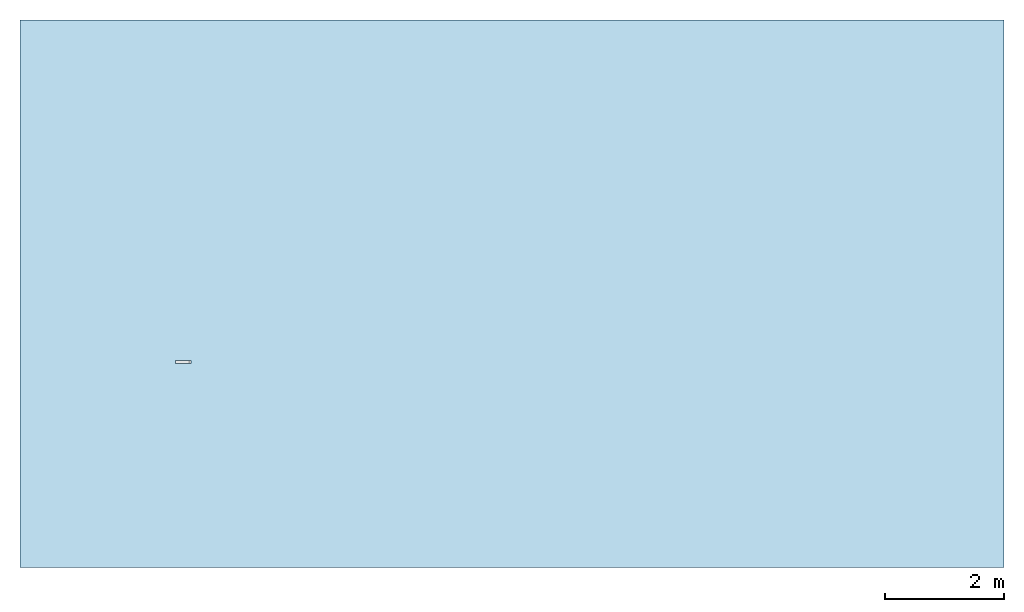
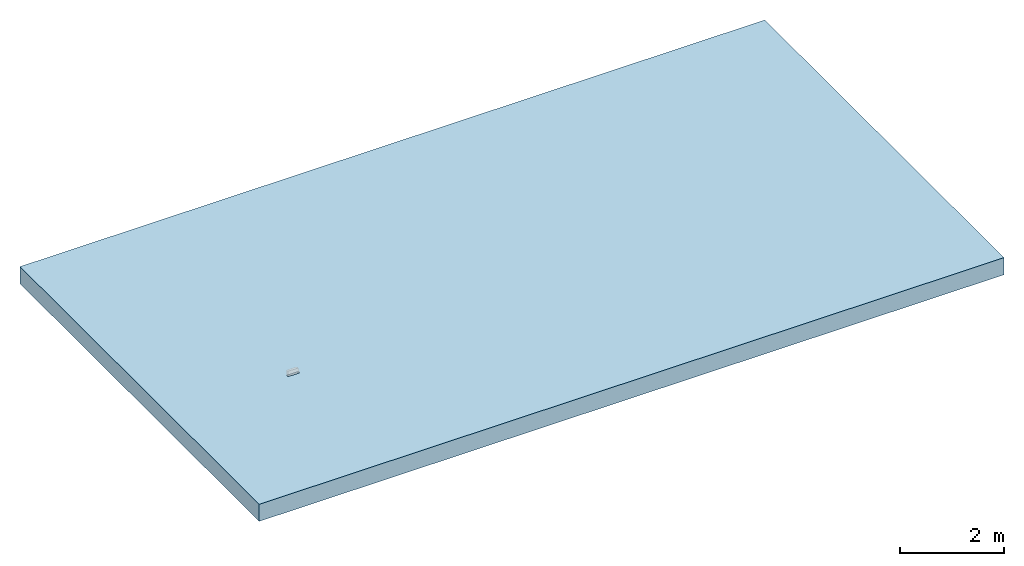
# One storey, part 1 of 2: 1 slab, 1 opening.
"""IFC2X3 building model written with IfcOpenShell, lengths in millimetres."""

from ifc_helpers import new_model, entity, si_unit, converted_unit, direction, frame, frame_2d, origin, origin_2d_with_axis, place, context, subcontext, project, spatial, rectangle, extrude, material, layer, layer_set, layer_usage, element, save


model = new_model("IFC2X3")

# Units and contexts
model_context = context("Model", 3, precision=1e-06, world=origin(), true_north=direction((2.0, 6.12303176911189e-17, 1.0)))
context_of_model = context(None, 3, precision=1e-06, world=origin(), true_north=direction((2.0, 6.12303176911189e-17, 1.0)))
body_context = subcontext(model_context, "Body", "Model", "MODEL_VIEW")
ifc_project = project(units=[si_unit("LENGTHUNIT", "METRE", prefix="MILLI"), si_unit("AREAUNIT", "SQUARE_METRE", prefix="MILLI"), si_unit("VOLUMEUNIT", "CUBIC_METRE", prefix="MILLI"), converted_unit("PLANEANGLEUNIT", "DEGREE", entity("IfcRatioMeasure", 0.0174532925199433), si_unit("PLANEANGLEUNIT", "RADIAN"), dimensions=[0, 0, 0, 0, 0, 0, 0]), si_unit("TIMEUNIT", "SECOND")], contexts=[model_context, context_of_model])

# Site, building, storey
site_placement = place(None, origin())
site = spatial("IfcSite", under=ifc_project, at=site_placement, Name="Default", CompositionType="ELEMENT")
building_placement = place(site_placement, origin())
building = spatial("IfcBuilding", under=site, at=building_placement, CompositionType="ELEMENT")
storey_placement = place(building_placement, origin())
storey = spatial("IfcBuildingStorey", under=building, at=storey_placement, Name="Level 1", CompositionType="ELEMENT", Elevation=0.0)

# Slab, opening
ifc_material = material(Name="Plant")
ifc_layer = layer(ifc_material, 400.0)
ifc_layer_set = layer_set([ifc_layer], Name="Floor:Generic Floor - 400mm")
ifc_layer_usage = layer_usage(ifc_layer_set, "AXIS3", "POSITIVE", 0.0)
slab_placement = place(storey_placement, frame((-17967.0691536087, -3738.31688706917, -400.0)))
slab = element("IfcSlab", 1, at=slab_placement, inside=storey, material=ifc_layer_usage, Name="Floor:Generic Floor - 400mm", ObjectType="Floor:Generic Floor - 400mm", PredefinedType="FLOOR", context=body_context, shape_type="SweptSolid", body=[
    extrude(rectangle(XDim=9180.0, YDim=16500.0, at=frame_2d((0.0, 0.0), x_axis=(0.0, -1.0))), frame((8250.0, 4590.0, 400.0), z_axis=(0.0, 0.0, -1.0), x_axis=(-1.0, 0.0, 0.0)), (0.0, 0.0, 1.0), 400.0),
])
opening_placement = place(slab_placement, origin())
element("IfcOpeningElement", 2, at=opening_placement, cuts=slab, ObjectType="Recess", context=body_context, shape_type="SweptSolid", body=[
    extrude(rectangle(XDim=259.999999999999, YDim=50.0000000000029, at=origin_2d_with_axis()), frame((2737.91502003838, 3446.65763662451, 290.0)), (0.0, 0.0, 1.0), 109.999999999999),
])

save(model, "model.ifc")
